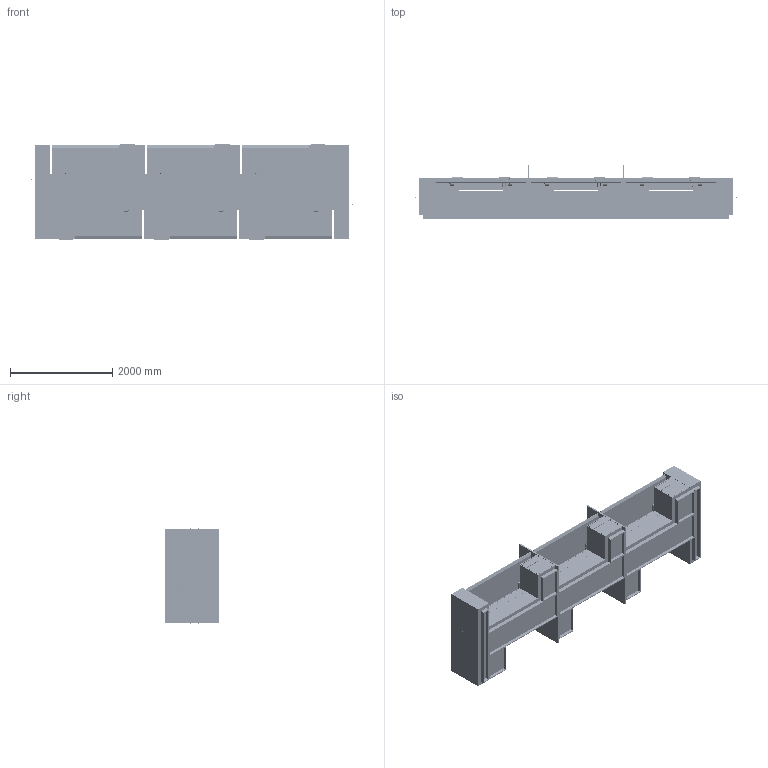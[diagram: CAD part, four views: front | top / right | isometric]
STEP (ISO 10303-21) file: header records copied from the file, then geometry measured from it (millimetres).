
FILE_DESCRIPTION(/* description */ ('','CAx-IF Rec.Pracs.---Representation and Presentation of Product Manufacturing Information (PMI)---4.0---2014-10-13'),/* implementation_level */ '2;1');
FILE_NAME(/* name */ 'WORKSTATION_ELEVATE 3.stp',/* time_stamp */ '2024-12-08T10:00:26-05:00',/* author */ ('mbowman'),/* organization */ (''),/* preprocessor_version */ 'ST-DEVELOPER v19.2',/* originating_system */ 'Autodesk Inventor 2023',/* authorisation */ '');
FILE_SCHEMA (('AP242_MANAGED_MODEL_BASED_3D_ENGINEERING_MIM_LF { 1 0 10303 442 1 1 4 }'));
Products named in the file (27): ELEVATIO^ADMIN_6 SEAT-DOUBLE SIDED STRAIGHT; ELEVATE^ADMIN_28x72-2 SIDE CENTER; ELEVATE^ADMIN_28x72-2 SIDE SYMMETRIC; dl5nc_without_bracket_STEP; dl5nc_without_bracket_STEP_1; ELEVATE^ADMIN_28x72-2 SIDE END; ELEVATE^ADMIN_28x72-2 SIDE END_1; ELEVATE^ADMIN_28.5x70-RECT WORKSURFACE; dl5nc_without_bracket_STEP_2; dl5nc_without_bracket_STEP_3; dl5nc_without_bracket_STEP_4; DL5NC_OP; STANDART_MOTORHUS1_DL5; ELEVATE^ADMIN_PED CENTER-18.75x23; ELEVATE^ADMIN_PED CENTER-18.75x23_1; ELEVATE^ADMIN_PED RIGHT-18.75x23; ELEVATE^ADMIN_PED RIGHT-18.75x23_1; JW PULL-11_125^STANDARD; ASHLEY LINK30 DESK POWER SUPPLY ASSY; ASHLEY LINK 30 DESK POWER UNIT; DESK POWER UNIT BRKT; ASHLEY LINK 60 DESK POWER UNIT MTG PLATE; DESK POWER UNIT BRKT BOLTS; ELEVATE^ADMIN_72.5x42-WOOD DIVIDER WALL; ELEVATE^ADMIN_12x72 PLANTER-32in FULL CASE; ELEVATE^ADMIN_12x72 PLANTER-WITHOUT ENDS; ELEVATE^ADMIN_12x72 PLANTER-WITH ENDS
Assembly tree (56 placements, depth 4):
  ELEVATIO^ADMIN_6 SEAT-DOUBLE SIDED STRAIGHT
    ELEVATE^ADMIN_28x72-2 SIDE CENTER
      ELEVATE^ADMIN_28x72-2 SIDE SYMMETRIC
      ELEVATE^ADMIN_28.5x70-RECT WORKSURFACE  x2
      dl5nc_without_bracket_STEP
        DL5NC_OP
        STANDART_MOTORHUS1_DL5
      dl5nc_without_bracket_STEP_1
        DL5NC_OP
        STANDART_MOTORHUS1_DL5
      dl5nc_without_bracket_STEP_4  x2
        DL5NC_OP
        STANDART_MOTORHUS1_DL5
      ELEVATE^ADMIN_PED CENTER-18.75x23  x2
        ELEVATE^ADMIN_PED CENTER-18.75x23_1
        JW PULL-11_125^STANDARD
      ASHLEY LINK30 DESK POWER SUPPLY ASSY  x2
        ASHLEY LINK 30 DESK POWER UNIT
        DESK POWER UNIT BRKT BOLTS
        DESK POWER UNIT BRKT
        ASHLEY LINK 60 DESK POWER UNIT MTG PLATE
    ELEVATE^ADMIN_28x72-2 SIDE END  x2
      ELEVATE^ADMIN_28x72-2 SIDE END_1
      ELEVATE^ADMIN_28.5x70-RECT WORKSURFACE
      dl5nc_without_bracket_STEP_2
        DL5NC_OP
        STANDART_MOTORHUS1_DL5
      dl5nc_without_bracket_STEP_3
        DL5NC_OP
        STANDART_MOTORHUS1_DL5
      dl5nc_without_bracket_STEP_4
        DL5NC_OP
        STANDART_MOTORHUS1_DL5
      ELEVATE^ADMIN_PED CENTER-18.75x23
        ELEVATE^ADMIN_PED CENTER-18.75x23_1
        JW PULL-11_125^STANDARD  x2
      ELEVATE^ADMIN_PED RIGHT-18.75x23
        ELEVATE^ADMIN_PED RIGHT-18.75x23_1
        JW PULL-11_125^STANDARD  x2
      ASHLEY LINK30 DESK POWER SUPPLY ASSY
        ASHLEY LINK 30 DESK POWER UNIT
        DESK POWER UNIT BRKT BOLTS  x2
        DESK POWER UNIT BRKT
        ASHLEY LINK 60 DESK POWER UNIT MTG PLATE
    ELEVATE^ADMIN_72.5x42-WOOD DIVIDER WALL  x2
    ELEVATE^ADMIN_12x72 PLANTER-32in FULL CASE  x2
    ELEVATE^ADMIN_12x72 PLANTER-WITHOUT ENDS  x3
    ELEVATE^ADMIN_12x72 PLANTER-WITH ENDS  x3
Bounding box: 6499.09 x 1066.8 x 1859.99 mm (x, y, z)
Volume: 1322183749.6 mm3; surface area: 130886815.5 mm2
Topology: 229 solids, 469 shells, 16338 faces, 42114 edges, 26780 vertices
Faces by surface type: plane 9348, cylinder 5652, torus 570, bspline 456, cone 156, sphere 156
Full cylindrical faces by diameter (mm): 4.6 x24, 4.978 x12, 5 x120, 5.3 x72, 5.5 x24, 6.35 x24, 8 x24, 8.202 x240, 8.636 x24, 9.525 x24, 17.272 x12, 25.4 x12, 28.575 x6
Entity records: 69125 total; most frequent: CARTESIAN_POINT 16218, DIRECTION 10557, ORIENTED_EDGE 9904, EDGE_CURVE 4952, AXIS2_PLACEMENT_3D 3554, LINE 3449, VECTOR 3449, VERTEX_POINT 3202
